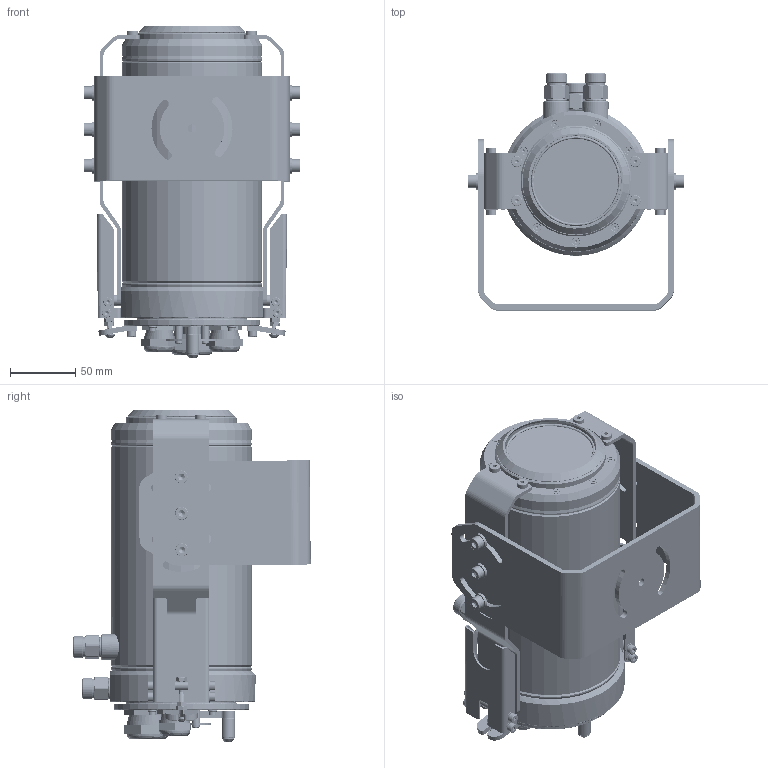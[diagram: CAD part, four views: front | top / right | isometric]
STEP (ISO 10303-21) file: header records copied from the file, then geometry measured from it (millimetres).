
FILE_DESCRIPTION (( 'STEP AP214' ), '1' );
FILE_NAME ('ACPICJAS + ACCJAFPx - CJAdv. Standard + Front Part.STEP', '2018-07-26T10:21:08', ( 'admin' ), ( '' ), 'SwSTEP 2.0', 'SolidWorks 2017', '' );
FILE_SCHEMA (( 'AUTOMOTIVE_DESIGN' ));
Length unit declared in the file: metre
Products named in the file (65): 64130 Dichteinsatz M20 USB-HOT-Kabel; 63212 O-Ring 12 x 2 FKM_O-Ring 20 x 1; 61506 Zylinderkopfschraube DIN 7984 A2 M5x6_PreviewCfg; 64131 Dichteinsatz M25 Ethernet-HOT-Kabel; 1C335 Rohrgewindeadapter 1_4-3_8; 61336 Senkkopfschraube ISK DIN 7991 A2 M3x16_DIN 7991 - M3 x 25 --- 12C; 9P352 Schweißkonstruktion-K; 9P353 Justagewinkel-K; 64118 Kabelverschraubung WADI M20 x 1,5; 1P348 Wasseranschlusszapfen; 61695 Federscheibe DIN 137 A2-B6_DIN 137-B6-FSt; 61390  Scheibe ISO 7091-3-200-HV-A2_Washer DIN 125 - A 4.3; 1P345 Heckplatte; 62328 Abstandsbolzen St-VZ SW5,5x28 M3x6; 1P352 Außenrohr-K; 61690  Scheibe DIN 125A-6,4 A2_Washer DIN 125 - A 6.4; 1P344 Frontplatte; 61602 Zylinderschraube ISK DIN 912-.A2 M6x10 _DIN 912 M4 x 6 --- 6S; 61318 Zylinderkopfschraube DIN 7984 A2 M3x18_DIN 7984 - M3 x 18 --- 16.5S; 9P350-6 CJ2K-CTL; 9P355-2 CJ2K Chassis-KO; 1P367-1 Montageblech-K; 63204 O-Ring FKM 2,3 x 2,4; 1P397 Düsenring-PI2XX-CTL; 61311 Zylinderschraube ISK DIN 912-A2 M3x5_DIN 912 M3 x 5 --- 5S; 1P340-1 Befestigungsgabel-CJ2; 61422 Zylinderschraube ISK DIN 912-.A2 M4x8 _DIN 912 M4 x 6 --- 6S; 9P343-1X Frontaufsatz CTL-XX; 1P399 Blechlegende; 9P341 Schnellverschluß; 1P354-1 Blechlasche; 63164 O-Ring 47 x 1,5_O-Ring 38 x 1,5; 61360 Distanzhülse MS-NI 6 x 3,2 x 10; 61495 Federscheibe DIN 137 B4 VZ_Washer DIN 125 - A 4.3; 64129 Kabelverschraubung WADI M25 x 1,5; 63166 O-Ring FKM 61 x 1,5; 61312 Zylinderschraube ISK DIN 912-A2 M3x10_DIN 912 M3 x 10; 1P341-1 Verschlußgriff; 63178 O-Ring FKM 78 x 1,5; 1P365-10 Schraubring-CTL_2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
Assembly tree (160 placements, depth 5):
  ACPICJAS + ACCJAFPx - CJAdv. Standard + Front Part
    9P350-6 CJ2K-CTL
      9P355-2 CJ2K Chassis-KO
        61411 Senkschraube A2-ISK DIN 7991 M4x10_ISO 7046-1 - M4 x 8 - Z --- 8S  x4
        61298 Spannstift ISO 8752-2 x 8-St_PreviewCfg  x2
        9P344 Chassis-Abdeckung
          1P353 Abdeckplatte
          63178 O-Ring FKM 78 x 1,5
          64129 Kabelverschraubung WADI M25 x 1,5
          1P354-1 Blechlasche  x2
          61422 Zylinderschraube ISK DIN 912-.A2 M4x8 _DIN 912 M4 x 6 --- 6S  x4
          63204 O-Ring FKM 2,3 x 2,4  x4
          61318 Zylinderkopfschraube DIN 7984 A2 M3x18_DIN 7984 - M3 x 18 --- 16.5S  x4
          62328 Abstandsbolzen St-VZ SW5,5x28 M3x6  x4
          61390  Scheibe ISO 7091-3-200-HV-A2_Washer DIN 125 - A 4.3  x4
          64118 Kabelverschraubung WADI M20 x 1,5  x2
          64131 Dichteinsatz M25 Ethernet-HOT-Kabel
          64130 Dichteinsatz M20 USB-HOT-Kabel  x2
        9P340 Spanngriff
          61545 Distanzhülse MS-NI 10x5,5x15
          61520 Linsenkopfschraube ISK ISO 7380 M5 x 20_ISO 7380 - M5 x 20 --- 20S
          1P395 Spanngriff
        61320 Sechskantmutter ISO 4035- M3 - A2 - 035_Hexagon Thin Nut ISO 4035 - M3 - N  x4
        AFNOR Kontaktscheibe Form M NF E 25-511 Edelstahl A2 8x3,1x0,6
        61312 Zylinderschraube ISK DIN 912-A2 M3x10_DIN 912 M3 x 10
        61360 Distanzhülse MS-NI 6 x 3,2 x 10  x2
        1P399 Blechlegende
        61318 Zylinderkopfschraube DIN 7984 A2 M3x18_DIN 7984 - M3 x 18 --- 16.5S  x2
        61311 Zylinderschraube ISK DIN 912-A2 M3x5_DIN 912 M3 x 5 --- 5S  x2
      9P351 K黨lgeh鋟se-K
        9P352 Schweißkonstruktion-K
          1P344 Frontplatte
          1P352 Außenrohr-K
          1P345 Heckplatte
          1P348 Wasseranschlusszapfen  x2
        1C335 Rohrgewindeadapter 1_4-3_8  x3
        63212 O-Ring 12 x 2 FKM_O-Ring 20 x 1  x3
        1P347 Luftverteilerring-H
        1P346 Luftverteilerring-V
        9P341 Schnellverschluß  x2
          1P342-1 Verschlußgabel
          1P343 Zugbolzen
          62402 Sk-Hutmutter DIN 917 A2 M4
          61430 Linsenkopfschrauben ISK ISO 7380 A2 M4x30_ISO 7380 - M5 x 20 --- 20S
          62400 Sechskantmutter DIN 439 M4 VZ_Hexagon Nut ISO 4032 - M4 - D - N
          61422 Zylinderschraube ISK DIN 912-.A2 M4x8 _DIN 912 M4 x 6 --- 6S
          1P341-1 Verschlußgriff
          61495 Federscheibe DIN 137 B4 VZ_Washer DIN 125 - A 4.3
        9P353 Justagewinkel-K
          1P340-1 Befestigungsgabel-CJ2
          1P367-1 Montageblech-K  x2
          61602 Zylinderschraube ISK DIN 912-.A2 M6x10 _DIN 912 M4 x 6 --- 6S  x6
          61690  Scheibe DIN 125A-6,4 A2_Washer DIN 125 - A 6.4  x6
          61695 Federscheibe DIN 137 A2-B6_DIN 137-B6-FSt  x6
        61336 Senkkopfschraube ISK DIN 7991 A2 M3x16_DIN 7991 - M3 x 25 --- 12C  x9
        61506 Zylinderkopfschraube DIN 7984 A2 M5x6_PreviewCfg  x8
        61421 Zylinderschraube ISK DIN 912-.A2 M4x6 _DIN 912 M4 x 6 --- 6S  x4
        63070 O-Ring FKM 100 x 1  x2
        61340 Senkkopfschraube ISK DIN 7991 A2 M3x25_DIN 7991 - M3 x 25 --- 12C  x9
        63188 O-Ring FKM 88 x 2
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Bounding box: 166.23 x 182.31 x 255 mm (x, y, z)
Volume: 707772.1 mm3; surface area: 463588 mm2
Topology: 167 solids, 167 shells, 8188 faces, 18233 edges, 10365 vertices
Faces by surface type: cone 3522, cylinder 2544, plane 1649, bspline 473
Entity records: 120069 total; most frequent: CARTESIAN_POINT 23830, DIRECTION 14164, ORIENTED_EDGE 12608, EDGE_CURVE 6304, AXIS2_PLACEMENT_3D 5671, VERTEX_POINT 3751, EDGE_LOOP 3089, CIRCLE 2950
